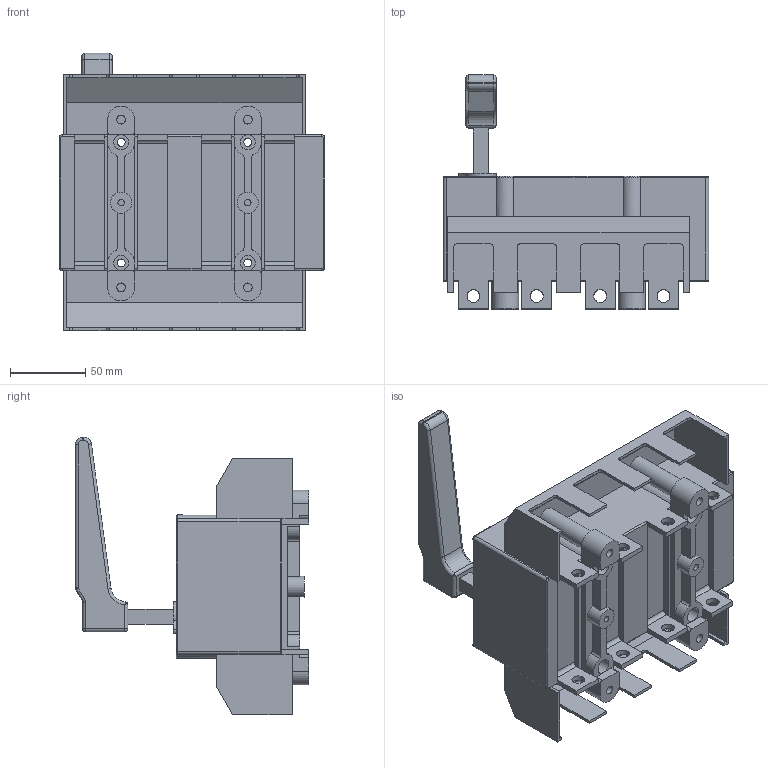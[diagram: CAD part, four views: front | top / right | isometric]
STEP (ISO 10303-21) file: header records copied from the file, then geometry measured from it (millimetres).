
FILE_DESCRIPTION(/* description */ (''),/* implementation_level */ '2;1');
FILE_NAME(/* name */ 'RA250 P3 NC-R z oslona zaciskow.stp',/* time_stamp */ '2021-08-18T08:35:09+02:00',/* author */ (''),/* organization */ (''),/* preprocessor_version */ 'ST-DEVELOPER v18.1',/* originating_system */ 'SIEMENS PLM Software NX 1965',/* authorisation */ '');
FILE_SCHEMA (('AUTOMOTIVE_DESIGN { 1 0 10303 214 3 1 1 1 }'));
Length unit declared in the file: millimetre
Products named in the file (1): RA250 P3 NC-R z oslona zaciskow_stp
Bounding box: 176 x 155 x 183.9 mm (x, y, z)
Volume: 1257086.8 mm3; surface area: 169625.1 mm2
Topology: 1 solids, 1 shells, 366 faces, 1031 edges, 660 vertices
Faces by surface type: plane 186, cylinder 154, torus 15, sphere 6, bspline 5
Full cylindrical faces by diameter (mm): 4.3 x2, 5.3 x4, 5.8 x4, 8.5 x8, 10 x12, 13 x4, 14 x2
Entity records: 11606 total; most frequent: CARTESIAN_POINT 2157, DIRECTION 2003, ORIENTED_EDGE 1922, EDGE_CURVE 961, AXIS2_PLACEMENT_3D 702, VERTEX_POINT 632, LINE 599, VECTOR 599
